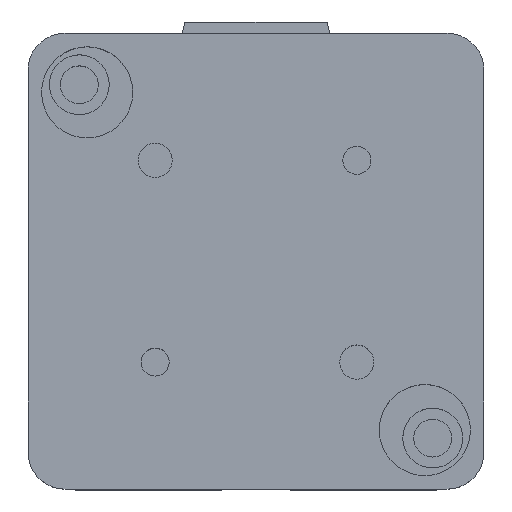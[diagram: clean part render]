
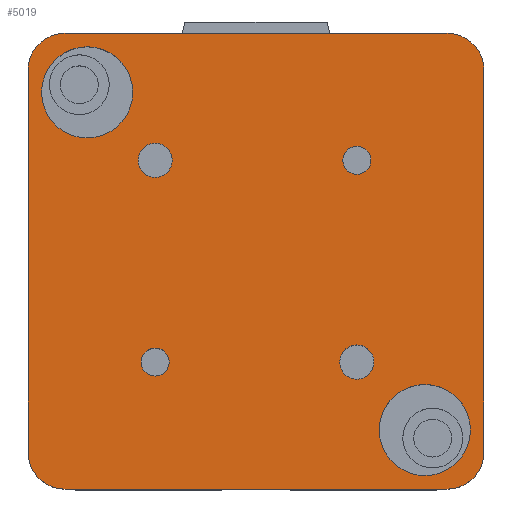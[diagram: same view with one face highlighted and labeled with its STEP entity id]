
A CAD part, top view. The second image highlights one B-rep face of the part: STEP entity #5019.
In plain terms, the highlighted planar face has unit normal (0, 0, 1) as drawn and (0, -1, 0) by its records, which use the part's own axes.
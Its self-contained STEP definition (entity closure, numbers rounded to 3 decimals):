
#4397=CARTESIAN_POINT('',(-15.242,-12.,-17.7));
#4398=VERTEX_POINT('',#4397);
#4399=CARTESIAN_POINT('',(-17.7,-12.,-17.7));
#4400=DIRECTION('',(0.0,1.0,0.0));
#4401=DIRECTION('',(1.0,0.0,0.0));
#4402=AXIS2_PLACEMENT_3D('',#4399,#4400,#4401);
#4403=CIRCLE('',#4402,2.459);
#4404=EDGE_CURVE('',#4398,#4398,#4403,.T.);
#4446=CARTESIAN_POINT('',(20.159,-12.,17.7));
#4447=VERTEX_POINT('',#4446);
#4448=CARTESIAN_POINT('',(17.7,-12.,17.7));
#4449=DIRECTION('',(0.0,1.0,0.0));
#4450=DIRECTION('',(1.0,0.0,0.0));
#4451=AXIS2_PLACEMENT_3D('',#4448,#4449,#4450);
#4452=CIRCLE('',#4451,2.459);
#4453=EDGE_CURVE('',#4447,#4447,#4452,.T.);
#4495=CARTESIAN_POINT('',(20.7,-12.,-17.7));
#4496=VERTEX_POINT('',#4495);
#4497=CARTESIAN_POINT('',(17.7,-12.,-17.7));
#4498=DIRECTION('',(0.0,1.0,0.0));
#4499=DIRECTION('',(1.0,0.0,0.0));
#4500=AXIS2_PLACEMENT_3D('',#4497,#4498,#4499);
#4501=CIRCLE('',#4500,3.);
#4502=EDGE_CURVE('',#4496,#4496,#4501,.T.);
#4544=CARTESIAN_POINT('',(-14.7,-12.,17.7));
#4545=VERTEX_POINT('',#4544);
#4546=CARTESIAN_POINT('',(-17.7,-12.,17.7));
#4547=DIRECTION('',(0.0,1.0,0.0));
#4548=DIRECTION('',(1.0,0.0,0.0));
#4549=AXIS2_PLACEMENT_3D('',#4546,#4547,#4548);
#4550=CIRCLE('',#4549,3.);
#4551=EDGE_CURVE('',#4545,#4545,#4550,.T.);
#4593=CARTESIAN_POINT('',(37.625,-12.,-29.625));
#4594=VERTEX_POINT('',#4593);
#4595=CARTESIAN_POINT('',(29.625,-12.,-29.625));
#4596=DIRECTION('',(0.0,1.0,0.0));
#4597=DIRECTION('',(1.0,0.0,0.0));
#4598=AXIS2_PLACEMENT_3D('',#4595,#4596,#4597);
#4599=CIRCLE('',#4598,8.0);
#4600=EDGE_CURVE('',#4594,#4594,#4599,.T.);
#4642=CARTESIAN_POINT('',(-21.625,-12.,29.625));
#4643=VERTEX_POINT('',#4642);
#4644=CARTESIAN_POINT('',(-29.625,-12.,29.625));
#4645=DIRECTION('',(0.0,1.0,0.0));
#4646=DIRECTION('',(1.0,0.0,0.0));
#4647=AXIS2_PLACEMENT_3D('',#4644,#4645,#4646);
#4648=CIRCLE('',#4647,8.0);
#4649=EDGE_CURVE('',#4643,#4643,#4648,.T.);
#4795=CARTESIAN_POINT('',(-33.5,-12.,40.0));
#4796=VERTEX_POINT('',#4795);
#4797=CARTESIAN_POINT('',(33.5,-12.,40.0));
#4798=VERTEX_POINT('',#4797);
#4799=CARTESIAN_POINT('',(-33.5,-12.,40.0));
#4800=DIRECTION('',(1.0,0.0,0.0));
#4801=VECTOR('',#4800,67.0);
#4802=LINE('',#4799,#4801);
#4803=EDGE_CURVE('',#4796,#4798,#4802,.T.);
#4826=CARTESIAN_POINT('',(40.0,-12.,33.5));
#4827=VERTEX_POINT('',#4826);
#4828=CARTESIAN_POINT('',(33.5,-12.,33.5));
#4829=DIRECTION('',(0.0,1.0,0.0));
#4830=DIRECTION('',(-1.0,0.0,0.0));
#4831=AXIS2_PLACEMENT_3D('',#4828,#4829,#4830);
#4832=CIRCLE('',#4831,6.5);
#4833=EDGE_CURVE('',#4798,#4827,#4832,.T.);
#4851=CARTESIAN_POINT('',(40.0,-12.,-33.5));
#4852=VERTEX_POINT('',#4851);
#4853=CARTESIAN_POINT('',(40.0,-12.,33.5));
#4854=DIRECTION('',(0.0,0.0,-1.0));
#4855=VECTOR('',#4854,67.);
#4856=LINE('',#4853,#4855);
#4857=EDGE_CURVE('',#4827,#4852,#4856,.T.);
#4875=CARTESIAN_POINT('',(33.5,-12.,-40.0));
#4876=VERTEX_POINT('',#4875);
#4877=CARTESIAN_POINT('',(33.5,-12.,-33.5));
#4878=DIRECTION('',(0.0,1.0,0.0));
#4879=DIRECTION('',(0.0,0.0,1.0));
#4880=AXIS2_PLACEMENT_3D('',#4877,#4878,#4879);
#4881=CIRCLE('',#4880,6.5);
#4882=EDGE_CURVE('',#4852,#4876,#4881,.T.);
#4900=CARTESIAN_POINT('',(-33.5,-12.,-40.0));
#4901=VERTEX_POINT('',#4900);
#4902=CARTESIAN_POINT('',(33.5,-12.,-40.0));
#4903=DIRECTION('',(-1.0,0.0,0.0));
#4904=VECTOR('',#4903,67.0);
#4905=LINE('',#4902,#4904);
#4906=EDGE_CURVE('',#4876,#4901,#4905,.T.);
#4924=CARTESIAN_POINT('',(-40.0,-12.,-33.5));
#4925=VERTEX_POINT('',#4924);
#4926=CARTESIAN_POINT('',(-33.5,-12.,-33.5));
#4927=DIRECTION('',(0.0,1.0,0.0));
#4928=DIRECTION('',(1.0,0.0,0.0));
#4929=AXIS2_PLACEMENT_3D('',#4926,#4927,#4928);
#4930=CIRCLE('',#4929,6.5);
#4931=EDGE_CURVE('',#4901,#4925,#4930,.T.);
#4949=CARTESIAN_POINT('',(-40.0,-12.,33.5));
#4950=VERTEX_POINT('',#4949);
#4951=CARTESIAN_POINT('',(-40.0,-12.,-33.5));
#4952=DIRECTION('',(0.0,0.0,1.0));
#4953=VECTOR('',#4952,67.0);
#4954=LINE('',#4951,#4953);
#4955=EDGE_CURVE('',#4925,#4950,#4954,.T.);
#4973=CARTESIAN_POINT('',(-33.5,-12.,33.5));
#4974=DIRECTION('',(0.0,1.0,0.0));
#4975=DIRECTION('',(0.0,0.0,-1.0));
#4976=AXIS2_PLACEMENT_3D('',#4973,#4974,#4975);
#4977=CIRCLE('',#4976,6.5);
#4978=EDGE_CURVE('',#4950,#4796,#4977,.T.);
#4986=CARTESIAN_POINT('',(0.,-12.,0.0));
#4987=DIRECTION('',(0.0,1.0,0.0));
#4988=DIRECTION('',(0.0,0.0,1.0));
#4989=AXIS2_PLACEMENT_3D('',#4986,#4987,#4988);
#4990=PLANE('',#4989);
#4991=ORIENTED_EDGE('',*,*,#4803,.F.);
#4992=ORIENTED_EDGE('',*,*,#4978,.F.);
#4993=ORIENTED_EDGE('',*,*,#4955,.F.);
#4994=ORIENTED_EDGE('',*,*,#4931,.F.);
#4995=ORIENTED_EDGE('',*,*,#4906,.F.);
#4996=ORIENTED_EDGE('',*,*,#4882,.F.);
#4997=ORIENTED_EDGE('',*,*,#4857,.F.);
#4998=ORIENTED_EDGE('',*,*,#4833,.F.);
#4999=EDGE_LOOP('',(#4991,#4992,#4993,#4994,#4995,#4996,#4997,#4998));
#5000=FACE_OUTER_BOUND('',#4999,.T.);
#5001=ORIENTED_EDGE('',*,*,#4404,.T.);
#5002=EDGE_LOOP('',(#5001));
#5003=FACE_BOUND('',#5002,.T.);
#5004=ORIENTED_EDGE('',*,*,#4453,.T.);
#5005=EDGE_LOOP('',(#5004));
#5006=FACE_BOUND('',#5005,.T.);
#5007=ORIENTED_EDGE('',*,*,#4502,.T.);
#5008=EDGE_LOOP('',(#5007));
#5009=FACE_BOUND('',#5008,.T.);
#5010=ORIENTED_EDGE('',*,*,#4551,.T.);
#5011=EDGE_LOOP('',(#5010));
#5012=FACE_BOUND('',#5011,.T.);
#5013=ORIENTED_EDGE('',*,*,#4600,.T.);
#5014=EDGE_LOOP('',(#5013));
#5015=FACE_BOUND('',#5014,.T.);
#5016=ORIENTED_EDGE('',*,*,#4649,.T.);
#5017=EDGE_LOOP('',(#5016));
#5018=FACE_BOUND('',#5017,.T.);
#5019=ADVANCED_FACE('',(#5000,#5003,#5006,#5009,#5012,#5015,#5018),#4990,.F.);
